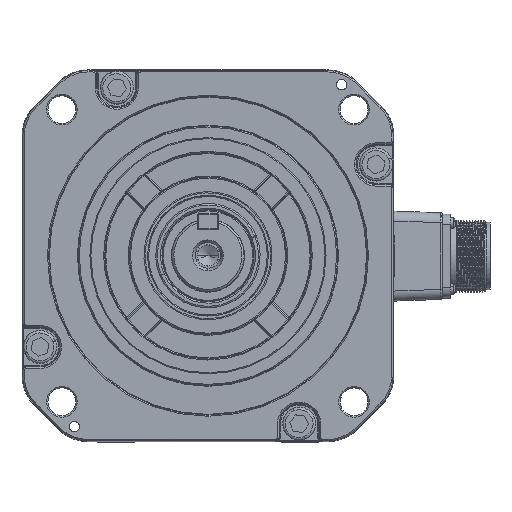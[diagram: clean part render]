
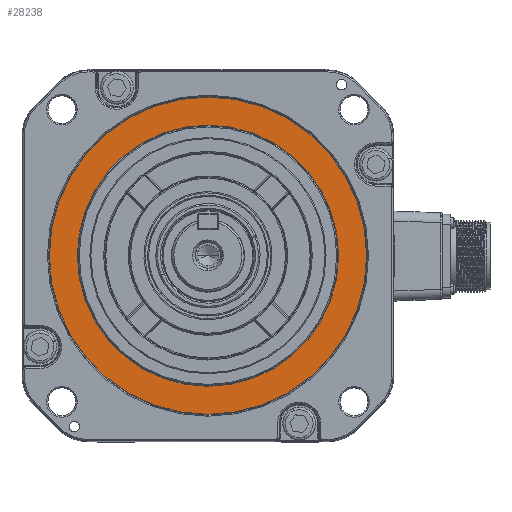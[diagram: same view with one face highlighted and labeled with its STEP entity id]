
A CAD part, top view. The second image highlights one B-rep face of the part: STEP entity #28238.
In plain terms, the highlighted planar face has unit normal (0, 0, 1).
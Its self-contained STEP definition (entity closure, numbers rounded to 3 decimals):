
#282 = AXIS2_PLACEMENT_3D ( 'NONE', #89906, #40720, #41808 ) ;
#4217 = EDGE_CURVE ( 'NONE', #10167, #48291, #9072, .T. ) ;
#8205 = PLANE ( 'NONE',  #11913 ) ;
#9072 = CIRCLE ( 'NONE', #106651, 76.793 ) ;
#10167 = VERTEX_POINT ( 'NONE', #56896 ) ;
#11913 = AXIS2_PLACEMENT_3D ( 'NONE', #49635, #40371, #82974 ) ;
#13553 = DIRECTION ( 'NONE',  ( 0., 0., 1. ) ) ;
#19428 = EDGE_CURVE ( 'NONE', #58159, #22619, #82175, .T. ) ;
#19613 = CARTESIAN_POINT ( 'NONE',  ( 63.207, 0., -3.7 ) ) ;
#22619 = VERTEX_POINT ( 'NONE', #19613 ) ;
#25064 = DIRECTION ( 'NONE',  ( -1., 0., 0. ) ) ;
#28238 = ADVANCED_FACE ( 'NONE', ( #57858, #65478 ), #8205, .F. ) ;
#35570 = ORIENTED_EDGE ( 'NONE', *, *, #4217, .T. ) ;
#39458 = CIRCLE ( 'NONE', #100497, 76.793 ) ;
#40215 = ORIENTED_EDGE ( 'NONE', *, *, #19428, .T. ) ;
#40371 = DIRECTION ( 'NONE',  ( 0., 0., -1. ) ) ;
#40720 = DIRECTION ( 'NONE',  ( 0., 0., -1. ) ) ;
#41808 = DIRECTION ( 'NONE',  ( -1., 0., 0. ) ) ;
#43007 = DIRECTION ( 'NONE',  ( 0., 0., 1. ) ) ;
#48291 = VERTEX_POINT ( 'NONE', #103899 ) ;
#49635 = CARTESIAN_POINT ( 'NONE',  ( 0., 77., -3.7 ) ) ;
#52693 = ORIENTED_EDGE ( 'NONE', *, *, #92826, .T. ) ;
#53554 = DIRECTION ( 'NONE',  ( 0., 0., -1. ) ) ;
#53946 = DIRECTION ( 'NONE',  ( -1., 0., 0. ) ) ;
#56154 = DIRECTION ( 'NONE',  ( -1., 0., 0. ) ) ;
#56896 = CARTESIAN_POINT ( 'NONE',  ( -76.793, 0., -3.7 ) ) ;
#57422 = ORIENTED_EDGE ( 'NONE', *, *, #89110, .T. ) ;
#57858 = FACE_OUTER_BOUND ( 'NONE', #68641, .T. ) ;
#58159 = VERTEX_POINT ( 'NONE', #71963 ) ;
#58214 = CIRCLE ( 'NONE', #86094, 63.207 ) ;
#58707 = EDGE_LOOP ( 'NONE', ( #40215, #57422 ) ) ;
#60696 = CARTESIAN_POINT ( 'NONE',  ( 0., 0., -3.7 ) ) ;
#65478 = FACE_BOUND ( 'NONE', #58707, .T. ) ;
#68641 = EDGE_LOOP ( 'NONE', ( #35570, #52693 ) ) ;
#71963 = CARTESIAN_POINT ( 'NONE',  ( -63.207, 0., -3.7 ) ) ;
#79644 = CARTESIAN_POINT ( 'NONE',  ( 0., 0., -3.7 ) ) ;
#82175 = CIRCLE ( 'NONE', #282, 63.207 ) ;
#82974 = DIRECTION ( 'NONE',  ( -1., 0., 0. ) ) ;
#86094 = AXIS2_PLACEMENT_3D ( 'NONE', #60696, #53554, #56154 ) ;
#89110 = EDGE_CURVE ( 'NONE', #22619, #58159, #58214, .T. ) ;
#89906 = CARTESIAN_POINT ( 'NONE',  ( 0., 0., -3.7 ) ) ;
#91126 = CARTESIAN_POINT ( 'NONE',  ( 0., 0., -3.7 ) ) ;
#92826 = EDGE_CURVE ( 'NONE', #48291, #10167, #39458, .T. ) ;
#100497 = AXIS2_PLACEMENT_3D ( 'NONE', #91126, #43007, #25064 ) ;
#103899 = CARTESIAN_POINT ( 'NONE',  ( 76.793, 0., -3.7 ) ) ;
#106651 = AXIS2_PLACEMENT_3D ( 'NONE', #79644, #13553, #53946 ) ;
